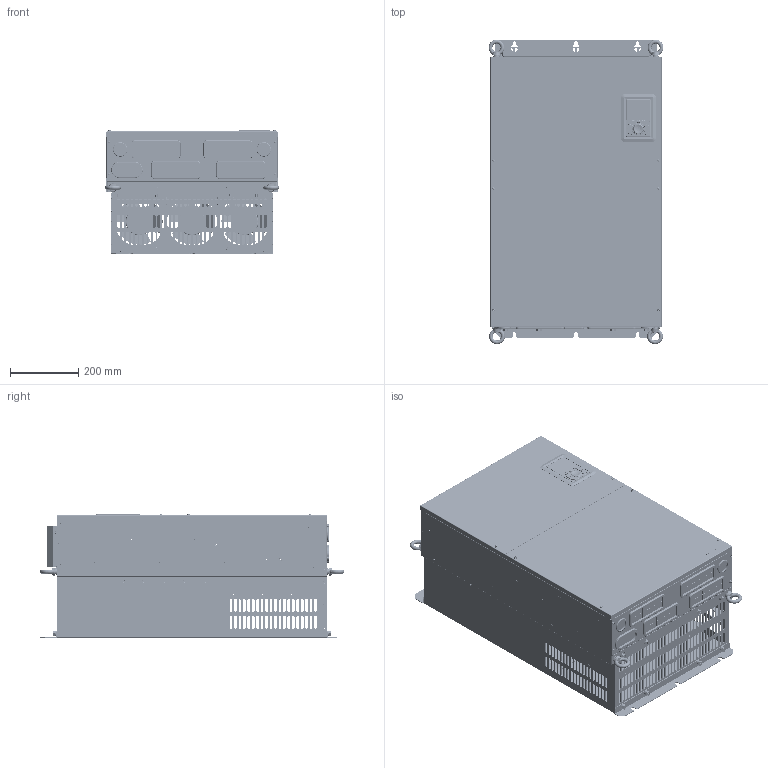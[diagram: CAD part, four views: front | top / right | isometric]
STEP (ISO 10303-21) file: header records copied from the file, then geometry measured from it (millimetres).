
FILE_DESCRIPTION((''),'2;1');
FILE_NAME('ST600-200G3_ASM','2019-07-03T',('Administrator'),(''),'PRO/ENGINEER BY PARAMETRIC TECHNOLOGY CORPORATION, 2010100','PRO/ENGINEER BY PARAMETRIC TECHNOLOGY CORPORATION, 2010100','');
FILE_SCHEMA(('CONFIG_CONTROL_DESIGN'));
Products named in the file (167): 80384713; S-M8-ZC; S-M4-ZC; 80384713_ASM; 80385060; BSO-M4-12-ZC; 80385060_ASM; 80381428; 80381428_ASM; 80385061; NZ-M10-ZC; 80385061_ASM; 80385058; 80385058_ASM; 80380144; S-M5-ZC; 80380144_ASM; 80380145; 80380145_ASM; 80380150; 80380150_ASM; 80380147; 80385059; 80385059_ASM; 80381356; SO-M4-8-ZC; BSO-M4-16-ZC; 80381356_ASM; 80380146; 80380146_ASM; 80380148; 80380148_ASM; 80380159; 80380164; 80380164_ASM; 80380156; 80380156_ASM; GB12617_4_4X10_SL; GB12617_4_4X12_SL; 61061121_ASM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
Assembly tree (596 placements, depth 6):
  ST600-200G3_ASM
    40800960_ASM
      61061121_ASM
        80384713_ASM
          80384713
          S-M8-ZC  x8
          S-M4-ZC  x12
        80385060_ASM
          80385060
          S-M4-ZC  x10
          BSO-M4-12-ZC  x2
          S-M8-ZC  x2
        80381428_ASM
          80381428
        80385061_ASM  x2
          80385061
          NZ-M10-ZC
          S-M8-ZC
        80385058_ASM
          80385058
          S-M4-ZC  x3
        80380144_ASM
          80380144
          S-M5-ZC  x3
        80380145_ASM
          80380145
          S-M5-ZC  x4
        80380150_ASM  x2
          80380150
          S-M4-ZC
        80380147  x2
        80385059_ASM
          80385059
          S-M8-ZC  x4
          NZ-M10-ZC  x2
        80381356_ASM
          80381356
          S-M4-ZC  x40
          SO-M4-8-ZC  x2
          BSO-M4-16-ZC  x2
        80380146_ASM  x4
          80380146
          S-M8-ZC
        80380148_ASM  x2
          80380148
          S-M4-ZC
        80380159  x2
        80380164_ASM  x2
          80380164
          S-M4-ZC
        80380156_ASM
          80380156
          S-M5-ZC  x6
        GB12617_4_4X10_SL  x108
        GB12617_4_4X12_SL  x12
      80384709
      80384719
      80381357_ASM
        80381357
        SO-M4-8-ZC  x9
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Bounding box: 511.2 x 890.1 x 363.8 mm (x, y, z)
Volume: 8602583.4 mm3; surface area: 7594338.1 mm2
Topology: 564 solids, 605 shells, 35884 faces, 93158 edges, 59982 vertices
Faces by surface type: plane 21737, cylinder 9788, cone 3067, torus 759, bspline 243, sphere 174, extrusion 116
Entity records: 518836 total; most frequent: CARTESIAN_POINT 106591, DIRECTION 87349, ORIENTED_EDGE 82618, EDGE_CURVE 41369, AXIS2_PLACEMENT_3D 30713, VERTEX_POINT 26568, VECTOR 25923, LINE 25807
